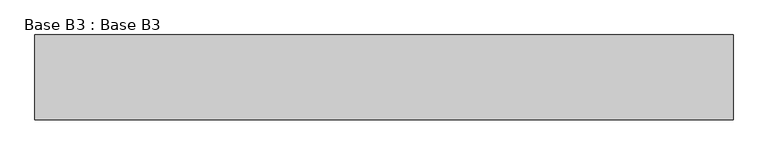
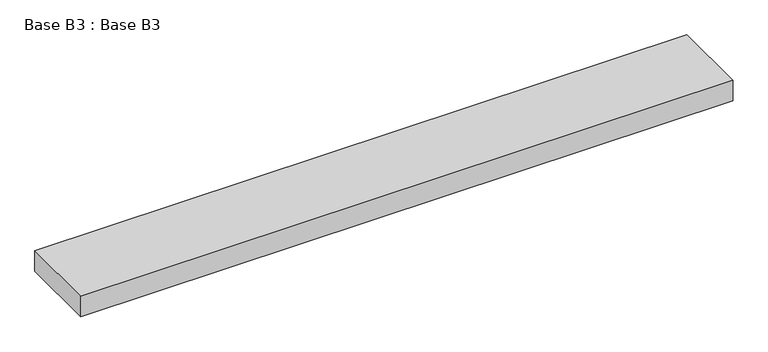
"""IFC4 building model written with IfcOpenShell, lengths in millimetres: furniture geometry, Base B3 : Base B3."""

from ifc_helpers import new_model, si_unit, origin, origin_with_axes, place, context, project, spatial, polyline, outline, extrude, source, transform, mapped, element, save


def base_b3_base_b3_a89c63cd(model_context):
    return source(origin(), model_context, "Body", "SweptSolid", [
        extrude(outline(polyline([(-3242.3834094, -1592.0637549), (-3242.3834094, -1042.0637549), (1277.6165906, -1042.0637549), (1277.6165906, -1592.0637549), (-3242.3834094, -1592.0637549)])), origin_with_axes(), (0.0, 0.0, 1.0), 150.0),
    ])


if __name__ == "__main__":
    model = new_model("IFC4")
    model_context = context("Model", 3, world=origin())
    ifc_project = project(units=[si_unit("LENGTHUNIT", "METRE", prefix="MILLI")], contexts=[model_context])
    site = spatial("IfcSite", under=ifc_project)
    building = spatial("IfcBuilding", under=site)
    placement = place(None, origin())
    base_b3_base_b3_shape = base_b3_base_b3_a89c63cd(model_context)
    element("IfcFurniture", 1, ObjectType="Base B3 : Base B3", at=placement, inside=building, context=model_context, shape_type="MappedRepresentation", body=[
        mapped(base_b3_base_b3_shape, transform((0.0, 0.0, 0.0), x_axis=(1.0, 0.0, 0.0), y_axis=(0.0, 1.0, 0.0), z_axis=(0.0, 0.0, 1.0))),
    ])
    save(model, "model.ifc")
